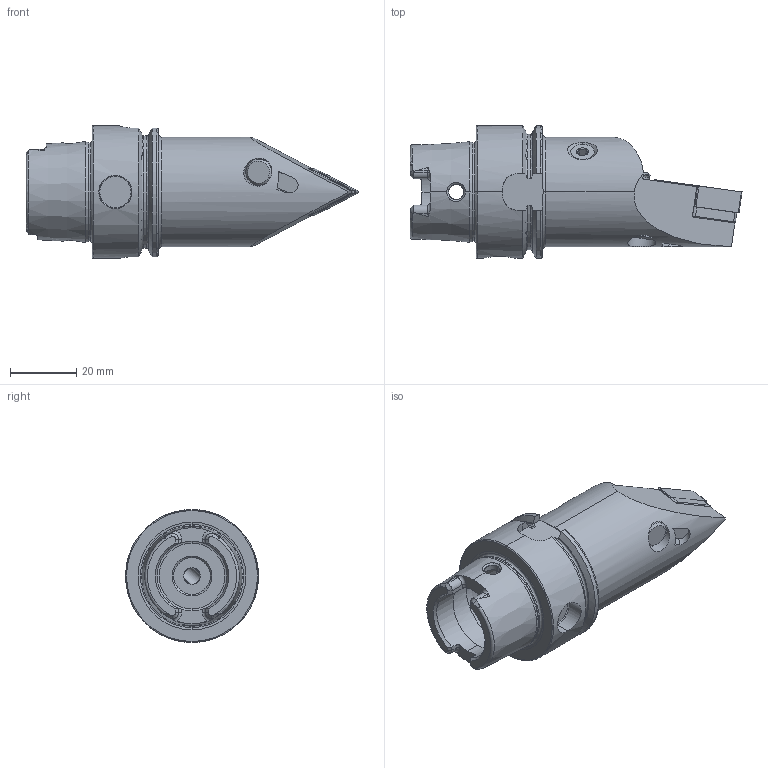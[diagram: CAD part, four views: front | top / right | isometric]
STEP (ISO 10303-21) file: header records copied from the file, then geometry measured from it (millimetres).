
FILE_DESCRIPTION (( 'STEP AP214' ), '1' );
FILE_NAME ('HA4.PDF.NNA.080-HP.STEP', '2020-09-11T11:13:26', ( '' ), ( '' ), 'SwSTEP 2.0', 'SolidWorks 2017', '' );
FILE_SCHEMA (( 'AUTOMOTIVE_DESIGN' ));
Length unit declared in the file: millimetre
Products named in the file (14): DIN 3771 - 13x1; HA4-PDF.NNA.080-HP_A_Fertigbearbeitung; WCD-ER4.101.017_A; CHP-ER1.015.006_A; KVT_MB_600_050; DNMG150604; WDF-ER3.101.000_A; WCD-ER1.101.000; WDF-ER2.101.003_A; HA4.PDF.NNA.080-HP; CHP-ER1.008.011_A; ISO 8752 2x8; CHP-ER1.015.006; DIN 7991 - M5x15
Assembly tree (13 placements, depth 3):
  HA4.PDF.NNA.080-HP
    HA4-PDF.NNA.080-HP_A_Fertigbearbeitung
    KVT_MB_600_050
    WDF-ER2.101.003_A
    DNMG150604
    WCD-ER4.101.017_A
    WDF-ER3.101.000_A
    WCD-ER1.101.000
    CHP-ER1.008.011_A
    CHP-ER1.015.006
      CHP-ER1.015.006_A
      DIN 3771 - 13x1
      DIN 7991 - M5x15
    ISO 8752 2x8
Bounding box: 99.9 x 40 x 40 mm (x, y, z)
Volume: 53739.1 mm3; surface area: 20337.7 mm2
Topology: 13 solids, 13 shells, 506 faces, 1247 edges, 749 vertices
Faces by surface type: plane 155, cylinder 138, cone 138, torus 57, bspline 16, sphere 2
Entity records: 18373 total; most frequent: CARTESIAN_POINT 4923, DIRECTION 2442, ORIENTED_EDGE 2440, EDGE_CURVE 1220, AXIS2_PLACEMENT_3D 963, VERTEX_POINT 746, EDGE_LOOP 536, LINE 516
